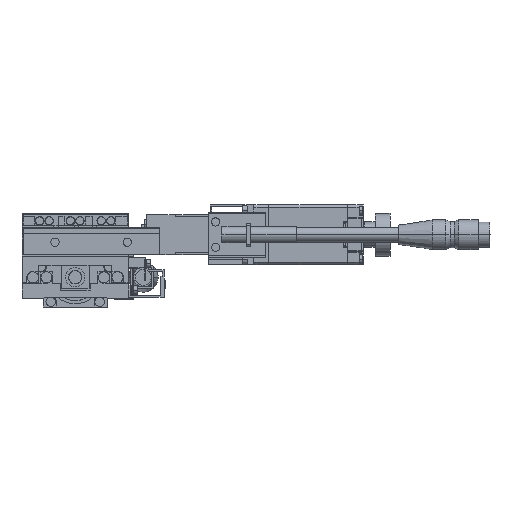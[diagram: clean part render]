
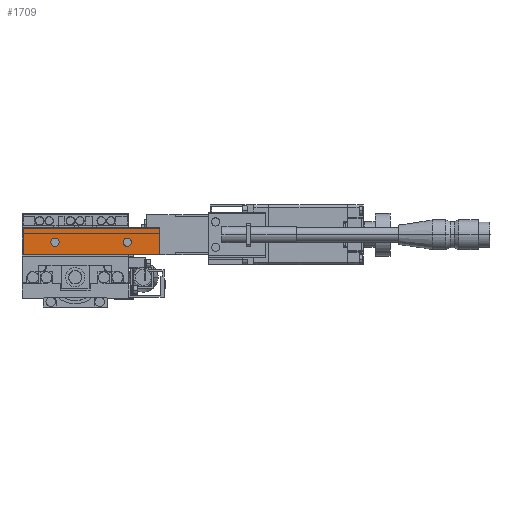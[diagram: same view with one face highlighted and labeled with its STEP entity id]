
A CAD part, left-side view. The second image highlights one B-rep face of the part: STEP entity #1709.
In plain terms, the highlighted planar face has unit normal (-1, 0, 0).
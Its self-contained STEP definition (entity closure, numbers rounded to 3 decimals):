
#1709=ADVANCED_FACE('',(#4526,#4527,#4528),#4529,.F.);
#4526=FACE_BOUND('',#7843,.T.);
#4527=FACE_BOUND('',#7844,.T.);
#4528=FACE_OUTER_BOUND('',#7845,.T.);
#4529=PLANE('',#7846);
#7843=EDGE_LOOP('',(#17680,#17681));
#7844=EDGE_LOOP('',(#17682,#17683));
#7845=EDGE_LOOP('',(#17684,#17685,#17686,#17687));
#7846=AXIS2_PLACEMENT_3D('',#17688,#17689,#17690);
#17680=ORIENTED_EDGE('',*,*,#23984,.T.);
#17681=ORIENTED_EDGE('',*,*,#23957,.T.);
#17682=ORIENTED_EDGE('',*,*,#23985,.T.);
#17683=ORIENTED_EDGE('',*,*,#23961,.T.);
#17684=ORIENTED_EDGE('',*,*,#23986,.T.);
#17685=ORIENTED_EDGE('',*,*,#23987,.F.);
#17686=ORIENTED_EDGE('',*,*,#23988,.F.);
#17687=ORIENTED_EDGE('',*,*,#23981,.T.);
#17688=CARTESIAN_POINT('',(-41.8,-39.5,33.5));
#17689=DIRECTION('',(1.0,0.,0.0));
#17690=DIRECTION('',(0.0,0.0,-1.0));
#23957=EDGE_CURVE('',#29559,#29563,#29565,.T.);
#23961=EDGE_CURVE('',#29567,#29571,#29573,.T.);
#23981=EDGE_CURVE('',#29611,#29609,#29612,.T.);
#23984=EDGE_CURVE('',#29563,#29559,#29616,.T.);
#23985=EDGE_CURVE('',#29571,#29567,#29617,.T.);
#23986=EDGE_CURVE('',#29609,#29618,#29619,.T.);
#23987=EDGE_CURVE('',#29620,#29618,#29621,.T.);
#23988=EDGE_CURVE('',#29611,#29620,#29622,.T.);
#29559=VERTEX_POINT('',#37971);
#29563=VERTEX_POINT('',#37976);
#29565=CIRCLE('',#37979,1.95);
#29567=VERTEX_POINT('',#37981);
#29571=VERTEX_POINT('',#37986);
#29573=CIRCLE('',#37989,1.95);
#29609=VERTEX_POINT('',#38039);
#29611=VERTEX_POINT('',#38042);
#29612=LINE('',#38043,#38044);
#29616=CIRCLE('',#38050,1.95);
#29617=CIRCLE('',#38051,1.95);
#29618=VERTEX_POINT('',#38052);
#29619=LINE('',#38053,#38054);
#29620=VERTEX_POINT('',#38055);
#29621=LINE('',#38056,#38057);
#29622=LINE('',#38058,#38059);
#37971=CARTESIAN_POINT('',(-41.8,7.55,26.5));
#37976=CARTESIAN_POINT('',(-41.8,11.45,26.5));
#37979=AXIS2_PLACEMENT_3D('',#45463,#45464,#45465);
#37981=CARTESIAN_POINT('',(-41.8,-26.45,26.5));
#37986=CARTESIAN_POINT('',(-41.8,-22.55,26.5));
#37989=AXIS2_PLACEMENT_3D('',#45471,#45472,#45473);
#38039=CARTESIAN_POINT('',(-41.8,24.5,33.5));
#38042=CARTESIAN_POINT('',(-41.8,-39.5,33.5));
#38043=CARTESIAN_POINT('',(-41.8,-39.5,33.5));
#38044=VECTOR('',#45501,1000.0);
#38050=AXIS2_PLACEMENT_3D('',#45504,#45505,#45506);
#38051=AXIS2_PLACEMENT_3D('',#45507,#45508,#45509);
#38052=CARTESIAN_POINT('',(-41.8,24.5,20.5));
#38053=CARTESIAN_POINT('',(-41.8,24.5,33.5));
#38054=VECTOR('',#45510,1000.0);
#38055=CARTESIAN_POINT('',(-41.8,-39.5,20.5));
#38056=CARTESIAN_POINT('',(-41.8,-39.5,20.5));
#38057=VECTOR('',#45511,1000.0);
#38058=CARTESIAN_POINT('',(-41.8,-39.5,33.5));
#38059=VECTOR('',#45512,1000.0);
#45463=CARTESIAN_POINT('',(-41.8,9.5,26.5));
#45464=DIRECTION('',(1.0,0.,0.0));
#45465=DIRECTION('',(0.,1.0,0.0));
#45471=CARTESIAN_POINT('',(-41.8,-24.5,26.5));
#45472=DIRECTION('',(1.0,0.,0.0));
#45473=DIRECTION('',(0.,1.0,0.0));
#45501=DIRECTION('',(0.,1.0,0.0));
#45504=CARTESIAN_POINT('',(-41.8,9.5,26.5));
#45505=DIRECTION('',(1.0,0.,0.0));
#45506=DIRECTION('',(0.,1.0,0.0));
#45507=CARTESIAN_POINT('',(-41.8,-24.5,26.5));
#45508=DIRECTION('',(1.0,0.,0.0));
#45509=DIRECTION('',(0.,1.0,0.0));
#45510=DIRECTION('',(0.0,0.0,-1.0));
#45511=DIRECTION('',(0.,1.0,0.0));
#45512=DIRECTION('',(0.0,0.0,-1.0));
